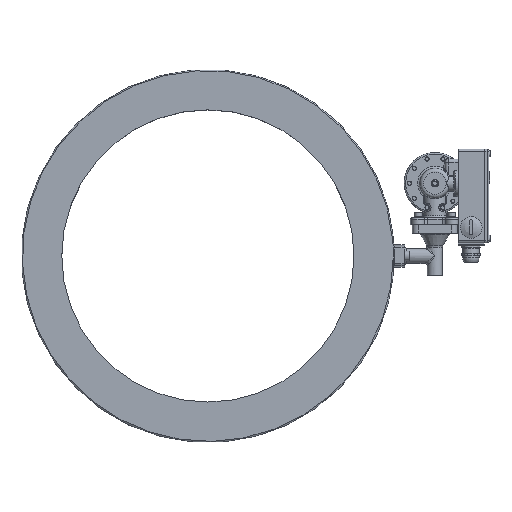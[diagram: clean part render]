
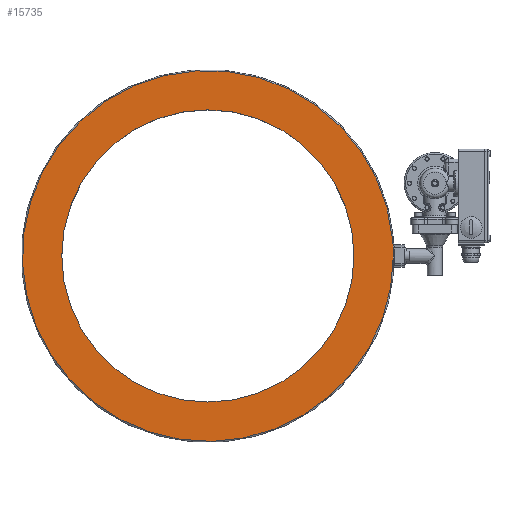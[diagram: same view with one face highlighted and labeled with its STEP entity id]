
A CAD part, top view. The second image highlights one B-rep face of the part: STEP entity #15735.
In plain terms, the highlighted planar face has unit normal (0, 0, 1).
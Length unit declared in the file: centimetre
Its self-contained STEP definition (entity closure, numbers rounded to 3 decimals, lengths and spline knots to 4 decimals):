
#4848=PLANE('',#16969);
#6144=VERTEX_POINT('',#34104);
#6151=VERTEX_POINT('',#34125);
#6697=CIRCLE('',#16964,24.75);
#6701=CIRCLE('',#16970,19.5);
#8643=EDGE_CURVE('',#6144,#6144,#6697,.T.);
#8651=EDGE_CURVE('',#6151,#6151,#6701,.T.);
#12541=ORIENTED_EDGE('',*,*,#8651,.T.);
#12542=ORIENTED_EDGE('',*,*,#8643,.F.);
#13709=EDGE_LOOP('',(#12541));
#13710=EDGE_LOOP('',(#12542));
#14855=FACE_BOUND('',#13709,.T.);
#14856=FACE_BOUND('',#13710,.T.);
#15735=ADVANCED_FACE('',(#14855,#14856),#4848,.T.);
#16964=AXIS2_PLACEMENT_3D('',#34103,#20054,#20055);
#16969=AXIS2_PLACEMENT_3D('',#34123,#20065,$);
#16970=AXIS2_PLACEMENT_3D('',#34124,#20066,#20067);
#20054=DIRECTION('',(0.,0.,-1.));
#20055=DIRECTION('',(-24.75,0.,0.));
#20065=DIRECTION('',(0.,0.,1.));
#20066=DIRECTION('',(0.,0.,-1.));
#20067=DIRECTION('',(-19.5,0.,0.));
#34103=CARTESIAN_POINT('',(-30.319,-6.7693,5.7468));
#34104=CARTESIAN_POINT('',(-5.569,-6.7693,5.7468));
#34123=CARTESIAN_POINT('',(-28.0469,-6.7693,5.7468));
#34124=CARTESIAN_POINT('',(-30.319,-6.7693,5.7468));
#34125=CARTESIAN_POINT('',(-10.819,-6.7693,5.7468));
